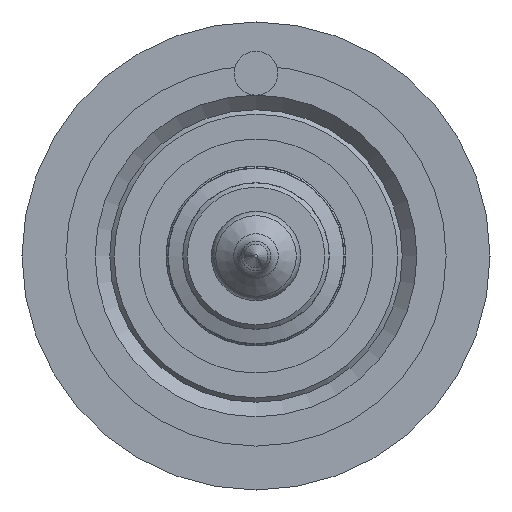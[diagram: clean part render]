
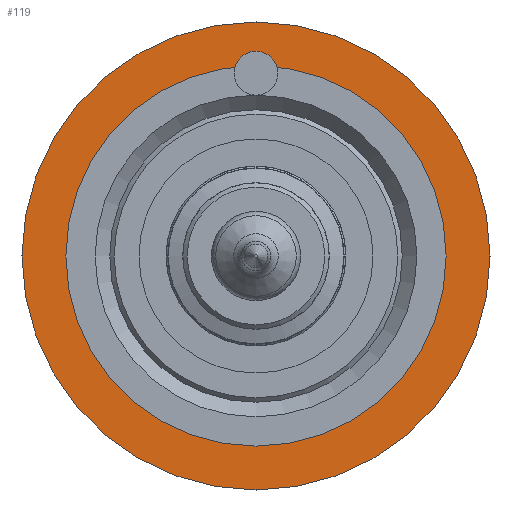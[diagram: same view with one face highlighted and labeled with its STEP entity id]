
A CAD part, front view. The second image highlights one B-rep face of the part: STEP entity #119.
In plain terms, the highlighted planar face has unit normal (0, -1, 0).
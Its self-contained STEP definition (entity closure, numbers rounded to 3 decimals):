
#119=ADVANCED_FACE('',(#279,#280),#281,.F.);
#279=FACE_BOUND('',#556,.T.);
#280=FACE_OUTER_BOUND('',#557,.T.);
#281=PLANE('',#558);
#556=EDGE_LOOP('',(#813));
#557=EDGE_LOOP('',(#814));
#558=AXIS2_PLACEMENT_3D('',#815,#816,#817);
#813=ORIENTED_EDGE('',*,*,#1187,.F.);
#814=ORIENTED_EDGE('',*,*,#1188,.T.);
#815=CARTESIAN_POINT('',(16.,-15.,0.));
#816=DIRECTION('',(0.0,1.0,0.0));
#817=DIRECTION('',(0.0,0.0,1.0));
#1187=EDGE_CURVE('',#1316,#1316,#1317,.T.);
#1188=EDGE_CURVE('',#1318,#1318,#1319,.T.);
#1316=VERTEX_POINT('',#1504);
#1317=CIRCLE('',#1505,13.);
#1318=VERTEX_POINT('',#1506);
#1319=CIRCLE('',#1507,16.);
#1504=CARTESIAN_POINT('',(0.0,-15.,-13.));
#1505=AXIS2_PLACEMENT_3D('',#1692,#1693,#1694);
#1506=CARTESIAN_POINT('',(0.0,-15.,-16.));
#1507=AXIS2_PLACEMENT_3D('',#1695,#1696,#1697);
#1692=CARTESIAN_POINT('',(0.0,-15.,0.0));
#1693=DIRECTION('',(0.0,-1.0,0.0));
#1694=DIRECTION('',(0.0,0.0,-1.0));
#1695=CARTESIAN_POINT('',(0.0,-15.,0.0));
#1696=DIRECTION('',(0.0,-1.0,0.0));
#1697=DIRECTION('',(0.0,0.0,-1.0));
